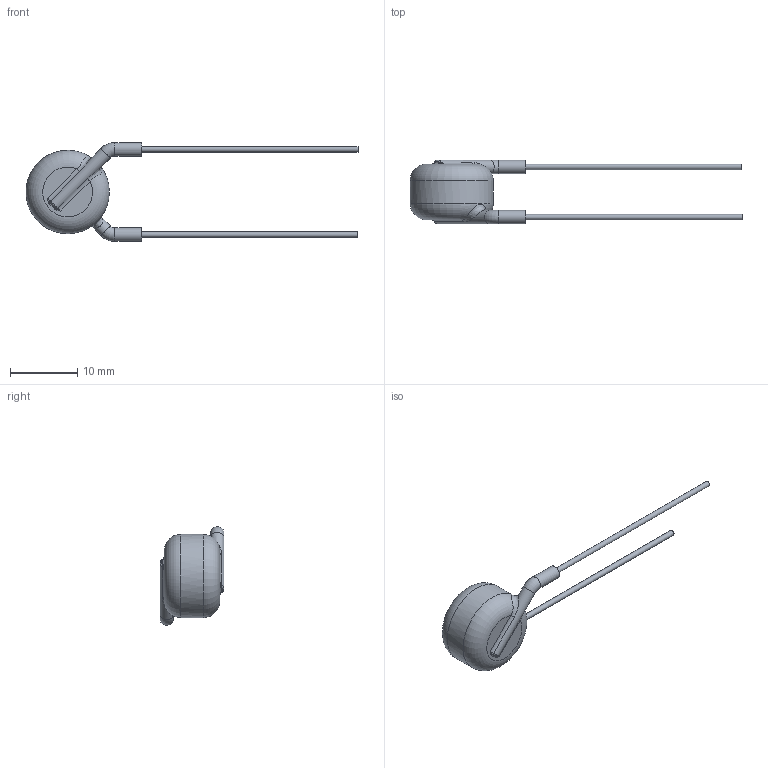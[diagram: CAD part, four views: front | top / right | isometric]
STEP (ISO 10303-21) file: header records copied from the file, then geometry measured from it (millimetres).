
FILE_DESCRIPTION((''),'2;1');
FILE_NAME('I:\Marketing\M6t1\3D-Models\Zchng-Werk-3\Upload for homepage\Ceramite\Y5U-15kV\615R150GAST50\615R150GAST50.stp','2015-08-28T12:23:13',(''),(''),'Autodesk Inventor 2013','Autodesk Inventor 2013','');
FILE_SCHEMA(('AUTOMOTIVE_DESIGN { 1 0 10303 214 1 1 1 1 }'));
Length unit declared in the file: centimetre
Products named in the file (1): 615R150GAST50
Bounding box: 49.4 x 9.5 x 14.7 mm (x, y, z)
Volume: 1009.4 mm3; surface area: 749.3 mm2
Topology: 1 solids, 1 shells, 41 faces, 91 edges, 50 vertices
Faces by surface type: cylinder 13, bspline 10, torus 10, plane 8
Full cylindrical faces by diameter (mm): 0.81 x2, 2 x4, 12.4 x1
Entity records: 1444 total; most frequent: CARTESIAN_POINT 611, DIRECTION 152, ORIENTED_EDGE 140, AXIS2_PLACEMENT_3D 70, EDGE_CURVE 70, EDGE_LOOP 54, VERTEX_POINT 44, STYLED_ITEM 42
